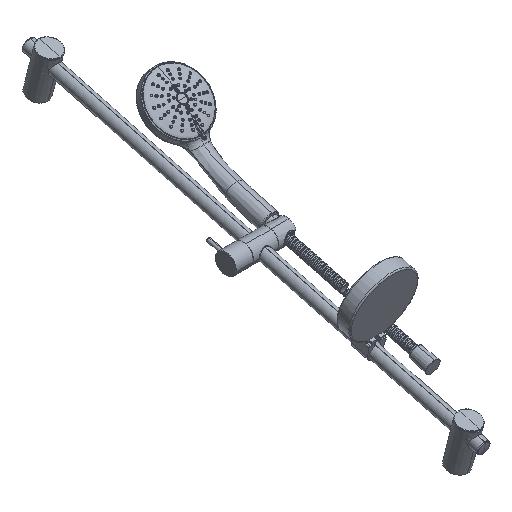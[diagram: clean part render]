
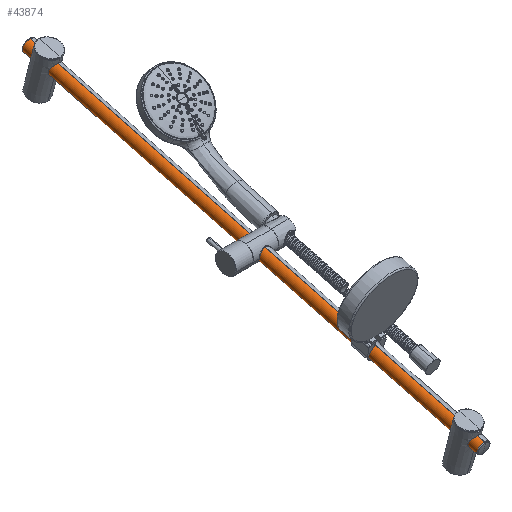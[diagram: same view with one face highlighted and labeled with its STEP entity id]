
A CAD part, isometric view. The second image highlights one B-rep face of the part: STEP entity #43874.
In plain terms, the highlighted cylindrical face has radius 10.3 mm (diameter 20.6 mm), a partial arc.
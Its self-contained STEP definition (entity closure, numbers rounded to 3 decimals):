
#43757=CARTESIAN_POINT('',(-41.,396.414,
126.006));
#43758=DIRECTION('',(0.,-0.966,-0.259));
#43759=DIRECTION('',(0.,-0.259,0.966));
#43760=AXIS2_PLACEMENT_3D('',#43757,#43758,#43759);
#43780=DIRECTION('',(0.,0.966,0.259));
#43781=VECTOR('',#43780,780.);
#43782=CARTESIAN_POINT('',(-40.995,-359.674,
-65.923));
#43783=LINE('',#43782,#43781);
#43784=CARTESIAN_POINT('',(-41.,-357.008,
-75.872));
#43785=DIRECTION('',(0.,-0.966,-0.259));
#43786=DIRECTION('',(0.,-0.259,0.966));
#43787=AXIS2_PLACEMENT_3D('',#43784,#43785,#43786);
#43789=DIRECTION('',(0.,0.966,0.259));
#43790=VECTOR('',#43789,780.);
#43791=CARTESIAN_POINT('',(-41.005,-354.342,
-85.821));
#43792=LINE('',#43791,#43790);
#43793=CARTESIAN_POINT('',(-40.995,-359.674,
-65.923));
#43794=CARTESIAN_POINT('',(-40.995,393.748,
135.955));
#43795=VERTEX_POINT('',#43793);
#43796=VERTEX_POINT('',#43794);
#43801=CARTESIAN_POINT('',(-41.005,-354.342,
-85.821));
#43802=CARTESIAN_POINT('',(-41.005,399.08,
116.057));
#43803=VERTEX_POINT('',#43801);
#43804=VERTEX_POINT('',#43802);
#43863=CARTESIAN_POINT('',(-41.,-394.679,
-85.966));
#43864=DIRECTION('',(0.,0.966,0.259));
#43865=DIRECTION('',(0.,-0.259,0.966));
#43866=AXIS2_PLACEMENT_3D('',#43863,#43864,#43865);
#43867=CYLINDRICAL_SURFACE('',#43866,10.3);
#43868=ORIENTED_EDGE('',*,*,#43826,.F.);
#43869=ORIENTED_EDGE('',*,*,#43814,.T.);
#43870=ORIENTED_EDGE('',*,*,#43830,.T.);
#43871=ORIENTED_EDGE('',*,*,#43842,.F.);
#43872=EDGE_LOOP('',(#43868,#43869,#43870,#43871));
#43873=FACE_OUTER_BOUND('',#43872,.F.);
#43874=ADVANCED_FACE('',(#43873),#43867,.T.);
#43761=CIRCLE('',#43760,10.3);
#43788=CIRCLE('',#43787,10.3);
#43814=EDGE_CURVE('',#43795,#43803,#43788,.T.);
#43826=EDGE_CURVE('',#43795,#43796,#43783,.T.);
#43830=EDGE_CURVE('',#43803,#43804,#43792,.T.);
#43842=EDGE_CURVE('',#43796,#43804,#43761,.T.);
